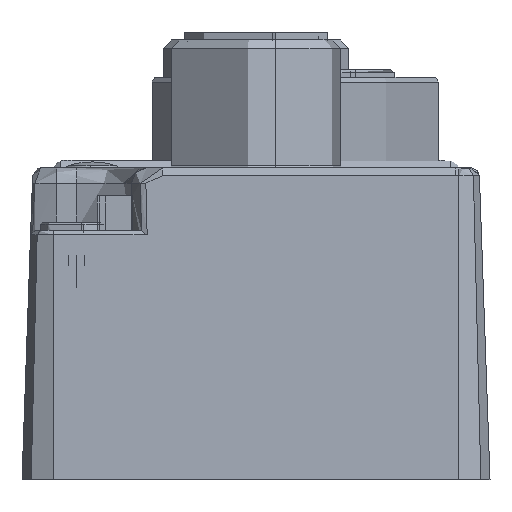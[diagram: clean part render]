
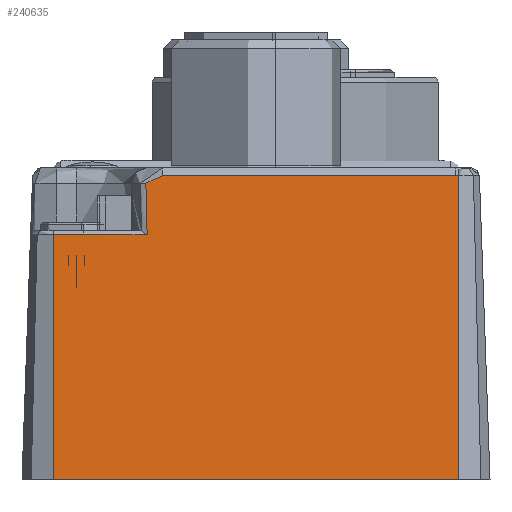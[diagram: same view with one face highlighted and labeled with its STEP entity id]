
A CAD part, front view. The second image highlights one B-rep face of the part: STEP entity #240635.
In plain terms, the highlighted planar face has unit normal (0, -0.999, 0.035).
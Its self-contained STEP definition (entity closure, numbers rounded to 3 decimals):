
#229093 = CARTESIAN_POINT ( 'NONE',  ( 28., -0.182, 0. ) ) ;
#229309 = CARTESIAN_POINT ( 'NONE',  ( 2., -0.182, 0. ) ) ;
#229312 = DIRECTION ( 'NONE',  ( 1., 0., 0. ) ) ;
#229314 = VECTOR ( 'NONE', #229312, 1000. ) ;
#229316 = CARTESIAN_POINT ( 'NONE',  ( 15., -0.182, 0. ) ) ;
#229319 = LINE ( 'NONE', #229316, #229314 ) ;
#230105 = VERTEX_POINT ( 'NONE', #229093 ) ;
#230124 = EDGE_CURVE ( 'NONE', #230127, #230105, #229319, .T. ) ;
#230127 = VERTEX_POINT ( 'NONE', #229309 ) ;
#239873 = EDGE_CURVE ( 'NONE', #230127, #239879, #250170, .T. ) ;
#239879 = VERTEX_POINT ( 'NONE', #250162 ) ;
#240033 = VERTEX_POINT ( 'NONE', #250826 ) ;
#240043 = EDGE_CURVE ( 'NONE', #230105, #240033, #251048, .T. ) ;
#240128 = ORIENTED_EDGE ( 'NONE', *, *, #230124, .T. ) ;
#240131 = ORIENTED_EDGE ( 'NONE', *, *, #240043, .T. ) ;
#240136 = EDGE_LOOP ( 'NONE', ( #240394, #240342, #240638, #240128, #240131, #240154, #240300, #240512 ) ) ;
#240154 = ORIENTED_EDGE ( 'NONE', *, *, #240155, .T. ) ;
#240155 = EDGE_CURVE ( 'NONE', #240033, #240474, #251610, .T. ) ;
#240160 = VERTEX_POINT ( 'NONE', #250623 ) ;
#240300 = ORIENTED_EDGE ( 'NONE', *, *, #240303, .T. ) ;
#240303 = EDGE_CURVE ( 'NONE', #240474, #240160, #253427, .T. ) ;
#240342 = ORIENTED_EDGE ( 'NONE', *, *, #240344, .T. ) ;
#240344 = EDGE_CURVE ( 'NONE', #240353, #239879, #253569, .T. ) ;
#240353 = VERTEX_POINT ( 'NONE', #253696 ) ;
#240394 = ORIENTED_EDGE ( 'NONE', *, *, #240454, .T. ) ;
#240395 = VERTEX_POINT ( 'NONE', #254293 ) ;
#240454 = EDGE_CURVE ( 'NONE', #240395, #240353, #254748, .T. ) ;
#240474 = VERTEX_POINT ( 'NONE', #254934 ) ;
#240512 = ORIENTED_EDGE ( 'NONE', *, *, #240520, .T. ) ;
#240520 = EDGE_CURVE ( 'NONE', #240160, #240395, #255059, .T. ) ;
#240635 = ADVANCED_FACE ( 'NONE', ( #255410 ), #255407, .F. ) ;
#240638 = ORIENTED_EDGE ( 'NONE', *, *, #239873, .F. ) ;
#248436 = CARTESIAN_POINT ( 'NONE',  ( 27.784, 0.499, 19.496 ) ) ;
#248441 = CARTESIAN_POINT ( 'NONE',  ( 27.856, 0.499, 19.496 ) ) ;
#250162 = CARTESIAN_POINT ( 'NONE',  ( 2., 0.367, 15.71 ) ) ;
#250164 = DIRECTION ( 'NONE',  ( 0., 0.035, 0.999 ) ) ;
#250165 = VECTOR ( 'NONE', #250164, 1000. ) ;
#250168 = CARTESIAN_POINT ( 'NONE',  ( 2., -0.182, 0. ) ) ;
#250170 = LINE ( 'NONE', #250168, #250165 ) ;
#250623 = CARTESIAN_POINT ( 'NONE',  ( 9., 0.499, 19.496 ) ) ;
#250826 = CARTESIAN_POINT ( 'NONE',  ( 28., 0.499, 19.494 ) ) ;
#251041 = DIRECTION ( 'NONE',  ( 0., 0.035, 0.999 ) ) ;
#251042 = VECTOR ( 'NONE', #251041, 1000. ) ;
#251046 = CARTESIAN_POINT ( 'NONE',  ( 28., -0.182, 0. ) ) ;
#251048 = LINE ( 'NONE', #251046, #251042 ) ;
#251595 = CARTESIAN_POINT ( 'NONE',  ( 27.928, 0.499, 19.496 ) ) ;
#251599 = CARTESIAN_POINT ( 'NONE',  ( 28., 0.499, 19.494 ) ) ;
#251610 = B_SPLINE_CURVE_WITH_KNOTS ( 'NONE', 3,
 ( #251599, #251595, #248441, #248436 ),
 .UNSPECIFIED., .F., .F.,
 ( 4, 4 ),
 ( 0., 0. ),
 .UNSPECIFIED. ) ;
#253421 = DIRECTION ( 'NONE',  ( -1., 0., 0. ) ) ;
#253422 = VECTOR ( 'NONE', #253421, 1000. ) ;
#253425 = CARTESIAN_POINT ( 'NONE',  ( 9., 0.499, 19.496 ) ) ;
#253427 = LINE ( 'NONE', #253425, #253422 ) ;
#253560 = DIRECTION ( 'NONE',  ( -1., 0., 0. ) ) ;
#253563 = VECTOR ( 'NONE', #253560, 1000. ) ;
#253565 = CARTESIAN_POINT ( 'NONE',  ( 3.259, 0.367, 15.71 ) ) ;
#253569 = LINE ( 'NONE', #253565, #253563 ) ;
#253696 = CARTESIAN_POINT ( 'NONE',  ( 8.022, 0.367, 15.71 ) ) ;
#254293 = CARTESIAN_POINT ( 'NONE',  ( 7.94, 0.483, 19.022 ) ) ;
#254726 = CARTESIAN_POINT ( 'NONE',  ( 7.993, 0.404, 16.77 ) ) ;
#254729 = CARTESIAN_POINT ( 'NONE',  ( 7.966, 0.443, 17.874 ) ) ;
#254731 = CARTESIAN_POINT ( 'NONE',  ( 7.94, 0.483, 19.022 ) ) ;
#254748 =( BOUNDED_CURVE ( )  B_SPLINE_CURVE ( 3, ( #254731, #254729, #254726, #254985 ),
 .UNSPECIFIED., .F., .T. ) 
 B_SPLINE_CURVE_WITH_KNOTS ( ( 4, 4 ),
 ( 5.483, 5.56 ),
 .UNSPECIFIED. ) 
 CURVE ( )  GEOMETRIC_REPRESENTATION_ITEM ( )  RATIONAL_B_SPLINE_CURVE ( ( 1., 1., 1., 1. ) ) 
 REPRESENTATION_ITEM ( '' )  );
#254934 = CARTESIAN_POINT ( 'NONE',  ( 27.784, 0.499, 19.496 ) ) ;
#254985 = CARTESIAN_POINT ( 'NONE',  ( 8.022, 0.367, 15.71 ) ) ;
#255012 = CARTESIAN_POINT ( 'NONE',  ( 7.94, 0.483, 19.022 ) ) ;
#255014 = CARTESIAN_POINT ( 'NONE',  ( 7.937, 0.487, 19.132 ) ) ;
#255018 = CARTESIAN_POINT ( 'NONE',  ( 7.992, 0.49, 19.235 ) ) ;
#255020 = CARTESIAN_POINT ( 'NONE',  ( 8.151, 0.495, 19.382 ) ) ;
#255024 = CARTESIAN_POINT ( 'NONE',  ( 8.255, 0.497, 19.425 ) ) ;
#255028 = CARTESIAN_POINT ( 'NONE',  ( 8.464, 0.499, 19.477 ) ) ;
#255032 = CARTESIAN_POINT ( 'NONE',  ( 8.57, 0.499, 19.487 ) ) ;
#255035 = CARTESIAN_POINT ( 'NONE',  ( 8.785, 0.499, 19.496 ) ) ;
#255037 = CARTESIAN_POINT ( 'NONE',  ( 8.892, 0.499, 19.496 ) ) ;
#255040 = CARTESIAN_POINT ( 'NONE',  ( 9., 0.499, 19.496 ) ) ;
#255059 = B_SPLINE_CURVE_WITH_KNOTS ( 'NONE', 3,
 ( #255040, #255037, #255035, #255032, #255028, #255024, #255020, #255018, #255014, #255012 ),
 .UNSPECIFIED., .F., .F.,
 ( 4, 2, 2, 2, 4 ),
 ( 0., 0., 0.001, 0.001, 0.001 ),
 .UNSPECIFIED. ) ;
#255404 = AXIS2_PLACEMENT_3D ( 'NONE', #255598, #255596, #255591 ) ;
#255407 = PLANE ( 'NONE',  #255404 ) ;
#255410 = FACE_OUTER_BOUND ( 'NONE', #240136, .T. ) ;
#255591 = DIRECTION ( 'NONE',  ( 0., 0.035, 0.999 ) ) ;
#255596 = DIRECTION ( 'NONE',  ( 0., 0.999, -0.035 ) ) ;
#255598 = CARTESIAN_POINT ( 'NONE',  ( 2., -0.182, 0. ) ) ;
